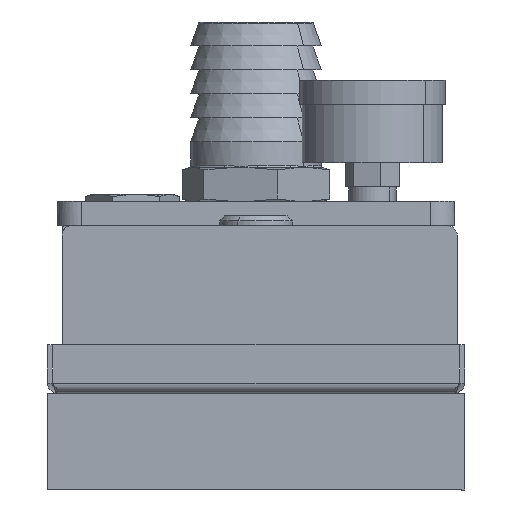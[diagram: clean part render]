
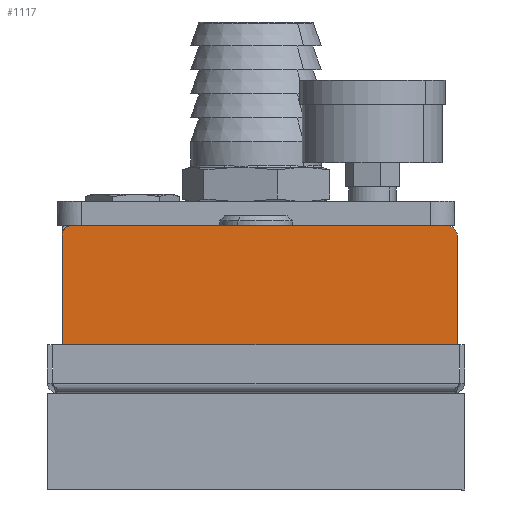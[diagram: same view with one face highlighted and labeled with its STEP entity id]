
A CAD part, front view. The second image highlights one B-rep face of the part: STEP entity #1117.
In plain terms, the highlighted planar face has unit normal (0, -1, 0).
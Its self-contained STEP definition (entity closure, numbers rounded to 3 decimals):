
#439 = VERTEX_POINT ( 'NONE', #10357 ) ;
#453 = VERTEX_POINT ( 'NONE', #10476 ) ;
#485 = VERTEX_POINT ( 'NONE', #9747 ) ;
#1117 = ADVANCED_FACE ( 'NONE', ( #7630 ), #11807, .T. ) ;
#2202 = ORIENTED_EDGE ( 'NONE', *, *, #7280, .F. ) ;
#2204 = ORIENTED_EDGE ( 'NONE', *, *, #8022, .F. ) ;
#2213 = ORIENTED_EDGE ( 'NONE', *, *, #7389, .F. ) ;
#2214 = ORIENTED_EDGE ( 'NONE', *, *, #8050, .F. ) ;
#2224 = ORIENTED_EDGE ( 'NONE', *, *, #7273, .F. ) ;
#2225 = ORIENTED_EDGE ( 'NONE', *, *, #7136, .F. ) ;
#2251 = ORIENTED_EDGE ( 'NONE', *, *, #8115, .F. ) ;
#2255 = ORIENTED_EDGE ( 'NONE', *, *, #7247, .F. ) ;
#2985 = DIRECTION ( 'NONE',  ( 1., 0., 0. ) ) ;
#2987 = DIRECTION ( 'NONE',  ( 0., 1., 0. ) ) ;
#2989 = CARTESIAN_POINT ( 'NONE',  ( 28.346, -127.599, 102.178 ) ) ;
#3105 = AXIS2_PLACEMENT_3D ( 'NONE', #4098, #4158, #4143 ) ;
#3124 = AXIS2_PLACEMENT_3D ( 'NONE', #2989, #2987, #2985 ) ;
#3256 = AXIS2_PLACEMENT_3D ( 'NONE', #12007, #12013, #12014 ) ;
#3354 = DIRECTION ( 'NONE',  ( 1., 0., 0. ) ) ;
#3374 = AXIS2_PLACEMENT_3D ( 'NONE', #12098, #12188, #12253 ) ;
#3414 = CARTESIAN_POINT ( 'NONE',  ( -49.154, -127.599, 104.178 ) ) ;
#4098 = CARTESIAN_POINT ( 'NONE',  ( -49.154, -127.599, 102.178 ) ) ;
#4143 = DIRECTION ( 'NONE',  ( -1., 0., 0. ) ) ;
#4158 = DIRECTION ( 'NONE',  ( 0., 1., 0. ) ) ;
#5367 = DIRECTION ( 'NONE',  ( 0., 0., 1. ) ) ;
#5368 = CARTESIAN_POINT ( 'NONE',  ( -51.154, -127.599, 76.178 ) ) ;
#5751 = AXIS2_PLACEMENT_3D ( 'NONE', #11777, #11811, #11713 ) ;
#7136 = EDGE_CURVE ( 'NONE', #14614, #485, #9753, .T. ) ;
#7247 = EDGE_CURVE ( 'NONE', #14592, #14617, #9965, .T. ) ;
#7273 = EDGE_CURVE ( 'NONE', #14613, #14592, #10016, .T. ) ;
#7280 = EDGE_CURVE ( 'NONE', #439, #453, #10029, .T. ) ;
#7389 = EDGE_CURVE ( 'NONE', #453, #14614, #10235, .T. ) ;
#7630 = FACE_OUTER_BOUND ( 'NONE', #8925, .T. ) ;
#8022 = EDGE_CURVE ( 'NONE', #485, #14648, #10618, .T. ) ;
#8050 = EDGE_CURVE ( 'NONE', #14648, #14613, #14925, .T. ) ;
#8115 = EDGE_CURVE ( 'NONE', #14617, #439, #15008, .T. ) ;
#8925 = EDGE_LOOP ( 'NONE', ( #2202, #2251, #2255, #2224, #2214, #2204, #2225, #2213 ) ) ;
#9747 = CARTESIAN_POINT ( 'NONE',  ( -49.154, -127.599, 104.178 ) ) ;
#9753 = CIRCLE ( 'NONE', #3105, 2. ) ;
#9965 = CIRCLE ( 'NONE', #3374, 2. ) ;
#10016 = LINE ( 'NONE', #12242, #10024 ) ;
#10024 = VECTOR ( 'NONE', #12234, 1000. ) ;
#10029 = CIRCLE ( 'NONE', #3256, 2. ) ;
#10235 = LINE ( 'NONE', #5368, #10241 ) ;
#10241 = VECTOR ( 'NONE', #5367, 1000. ) ;
#10357 = CARTESIAN_POINT ( 'NONE',  ( -49.154, -127.599, 74.178 ) ) ;
#10476 = CARTESIAN_POINT ( 'NONE',  ( -51.154, -127.599, 76.178 ) ) ;
#10618 = LINE ( 'NONE', #3414, #10626 ) ;
#10626 = VECTOR ( 'NONE', #3354, 1000. ) ;
#11713 = DIRECTION ( 'NONE',  ( -1., 0., 0. ) ) ;
#11777 = CARTESIAN_POINT ( 'NONE',  ( -49.154, -127.599, 76.178 ) ) ;
#11807 = PLANE ( 'NONE',  #5751 ) ;
#11811 = DIRECTION ( 'NONE',  ( 0., -1., 0. ) ) ;
#12007 = CARTESIAN_POINT ( 'NONE',  ( -49.154, -127.599, 76.178 ) ) ;
#12013 = DIRECTION ( 'NONE',  ( 0., 1., 0. ) ) ;
#12014 = DIRECTION ( 'NONE',  ( -1., 0., 0. ) ) ;
#12098 = CARTESIAN_POINT ( 'NONE',  ( 28.346, -127.599, 76.178 ) ) ;
#12188 = DIRECTION ( 'NONE',  ( 0., 1., 0. ) ) ;
#12234 = DIRECTION ( 'NONE',  ( 0., 0., -1. ) ) ;
#12242 = CARTESIAN_POINT ( 'NONE',  ( 30.346, -127.599, 76.178 ) ) ;
#12253 = DIRECTION ( 'NONE',  ( 1., 0., 0. ) ) ;
#14592 = VERTEX_POINT ( 'NONE', #16813 ) ;
#14613 = VERTEX_POINT ( 'NONE', #16760 ) ;
#14614 = VERTEX_POINT ( 'NONE', #16759 ) ;
#14617 = VERTEX_POINT ( 'NONE', #16771 ) ;
#14648 = VERTEX_POINT ( 'NONE', #16714 ) ;
#14925 = CIRCLE ( 'NONE', #3124, 2. ) ;
#15008 = LINE ( 'NONE', #16047, #15019 ) ;
#15019 = VECTOR ( 'NONE', #16078, 1000. ) ;
#16047 = CARTESIAN_POINT ( 'NONE',  ( -49.154, -127.599, 74.178 ) ) ;
#16078 = DIRECTION ( 'NONE',  ( -1., 0., 0. ) ) ;
#16714 = CARTESIAN_POINT ( 'NONE',  ( 28.346, -127.599, 104.178 ) ) ;
#16759 = CARTESIAN_POINT ( 'NONE',  ( -51.154, -127.599, 102.178 ) ) ;
#16760 = CARTESIAN_POINT ( 'NONE',  ( 30.346, -127.599, 102.178 ) ) ;
#16771 = CARTESIAN_POINT ( 'NONE',  ( 28.346, -127.599, 74.178 ) ) ;
#16813 = CARTESIAN_POINT ( 'NONE',  ( 30.346, -127.599, 76.178 ) ) ;
